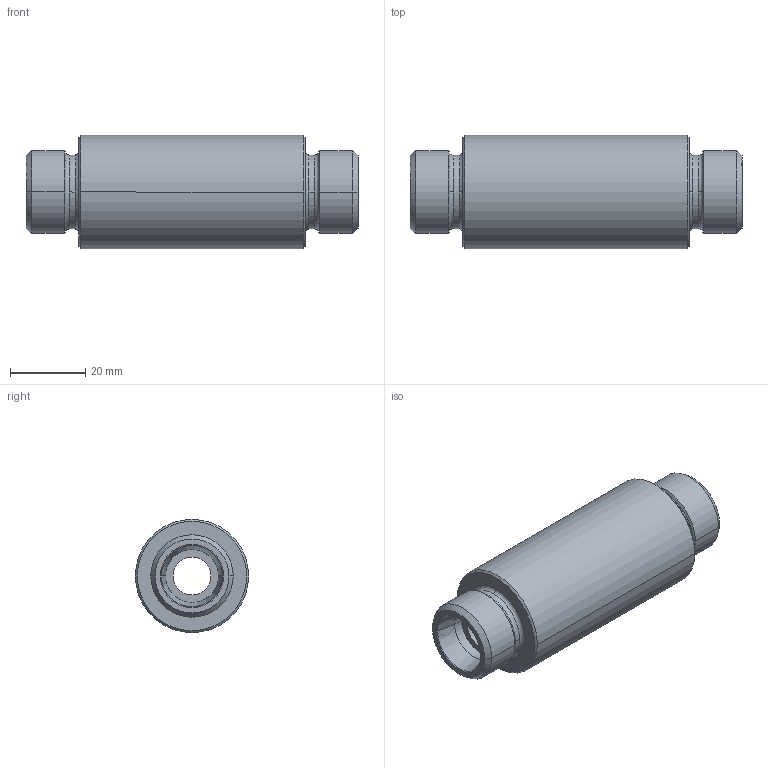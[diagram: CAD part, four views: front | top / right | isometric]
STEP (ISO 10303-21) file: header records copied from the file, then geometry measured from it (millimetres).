
FILE_DESCRIPTION((''),'2;1');
FILE_NAME('105618.stp','2007-10-31T14:07:31',(''),(''),'AutoCAD STEP 2000i','AutoCAD 2000i',', , ');
FILE_SCHEMA(('CONFIG_CONTROL_DESIGN'));
Length unit declared in the file: millimetre
Products named in the file (2): 105618.0; BARRA TONDA#0
Assembly tree (1 placements, depth 2):
  105618.0
    BARRA TONDA#0
Bounding box: 88 x 30 x 30 mm (x, y, z)
Volume: 43856.8 mm3; surface area: 11690.2 mm2
Topology: 1 solids, 1 shells, 50 faces, 120 edges, 76 vertices
Faces by surface type: cone 16, cylinder 16, bspline 8, plane 6, torus 4
Entity records: 1929 total; most frequent: CARTESIAN_POINT 600, DIRECTION 296, ORIENTED_EDGE 240, AXIS2_PLACEMENT_3D 132, EDGE_CURVE 120, CIRCLE 88, VERTEX_POINT 76, EDGE_LOOP 56
